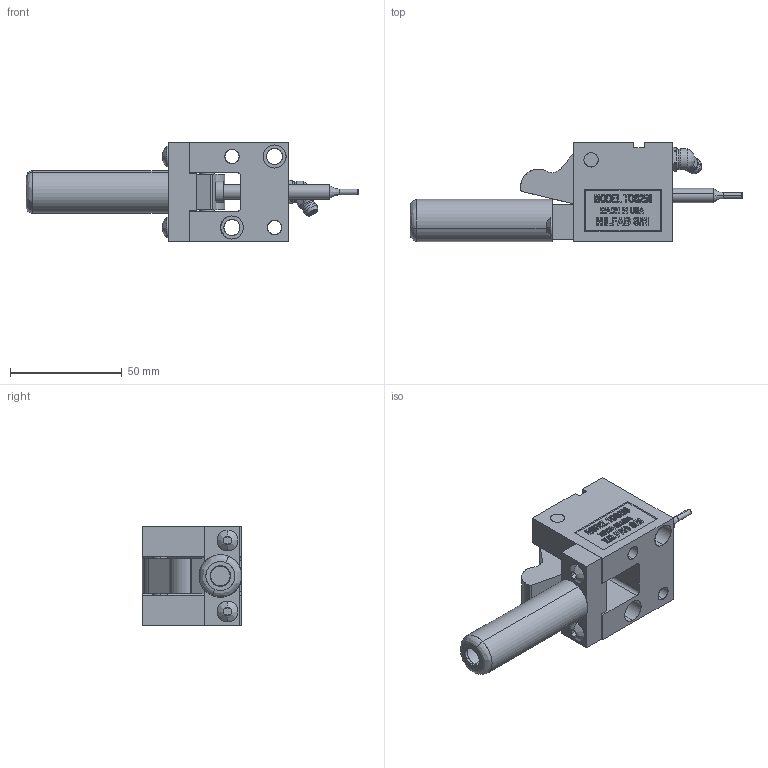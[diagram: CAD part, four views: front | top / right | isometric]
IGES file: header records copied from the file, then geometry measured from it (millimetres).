
Start section: SolidWorks IGES file using analytic representation for surfaces
Global section: file name: Y:\JIM'S INCH CAM UNITS\TOS25045\CLOSED\TOS25045-C.IGS; native system: SolidWorks 2006 by SolidWorks Corporation; preprocessor: SolidWorks 2006 by SolidWorks Corporation; author: Jim; date: 090210.170639; units: inch
Bounding box: 148.44 x 44.45 x 44.45 mm (x, y, z)
Surface area: 36186.8 mm2 (no closed solid volume)
Topology: 0 solids, 0 shells, 587 faces, 7212 edges, 7208 vertices
Faces by surface type: bspline 475, revolution 112
